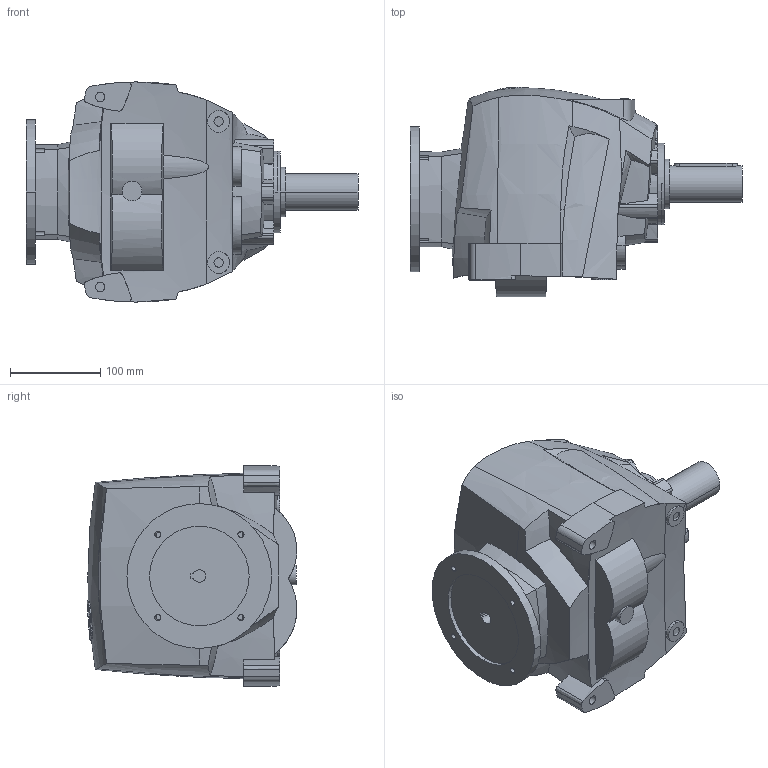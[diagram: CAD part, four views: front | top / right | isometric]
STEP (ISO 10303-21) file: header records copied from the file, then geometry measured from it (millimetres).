
FILE_DESCRIPTION((''),'2;1');
FILE_NAME('R35_UNV_PAM71_D2','2013-11-05T',('Luca'),(''),'PRO/ENGINEER BY PARAMETRIC TECHNOLOGY CORPORATION, 2008230','PRO/ENGINEER BY PARAMETRIC TECHNOLOGY CORPORATION, 2008230','');
FILE_SCHEMA(('CONFIG_CONTROL_DESIGN'));
Length unit declared in the file: millimetre
Products named in the file (1): R35_UNV_PAM71_D2
Bounding box: 367 x 231.65 x 243.29 mm (x, y, z)
Volume: 8753961.6 mm3; surface area: 310500.2 mm2
Topology: 1 solids, 3 shells, 390 faces, 1101 edges, 745 vertices
Faces by surface type: cylinder 130, plane 93, extrusion 92, bspline 54, cone 12, torus 9
Entity records: 20407 total; most frequent: CARTESIAN_POINT 11289, ORIENTED_EDGE 2196, DIRECTION 1335, EDGE_CURVE 1098, VERTEX_POINT 745, B_SPLINE_CURVE_WITH_KNOTS 631, VECTOR 455, AXIS2_PLACEMENT_3D 440
